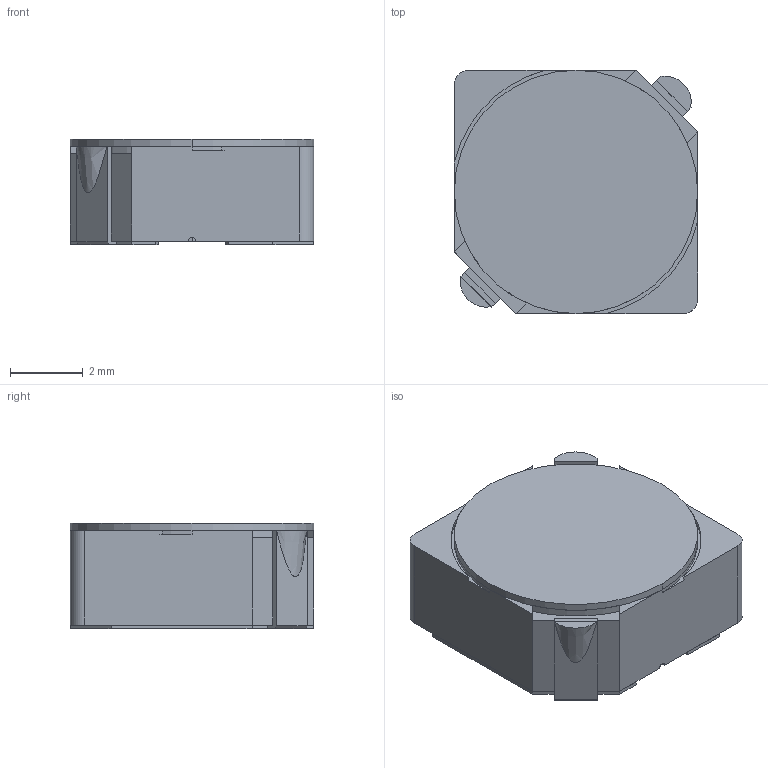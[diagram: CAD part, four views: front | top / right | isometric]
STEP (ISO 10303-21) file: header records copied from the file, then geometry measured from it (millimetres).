
FILE_DESCRIPTION(('FreeCAD Model'),'2;1');
FILE_NAME('D:/_KiCAD_proj/_Kicad_User_Lib/3dmodels/Inductor_SMD_user.3dshapes\SUMIDA-CDRH6D28.step','2021-02-24T10:19:39',('kicad StepUp'),('ksu MCAD' ),'Open CASCADE STEP processor 7.3','FreeCAD','Unknown');
FILE_SCHEMA(('AUTOMOTIVE_DESIGN { 1 0 10303 214 1 1 1 1 }'));
Length unit declared in the file: millimetre
Products named in the file (1): SUMIDA-CDRH6D28
Bounding box: 6.7 x 6.7 x 2.9 mm (x, y, z)
Volume: 115.4 mm3; surface area: 310 mm2
Topology: 5 solids, 5 shells, 90 faces, 1160 edges, 4793 vertices
Faces by surface type: plane 66, cylinder 21, cone 3
Entity records: 19673 total; most frequent: CARTESIAN_POINT 6374, DIRECTION 1527, GEOMETRIC_CURVE_SET 929, TRIMMED_CURVE 928, LINE 895, VECTOR 895, STYLED_ITEM 701, PRESENTATION_STYLE_ASSIGNMENT 701
